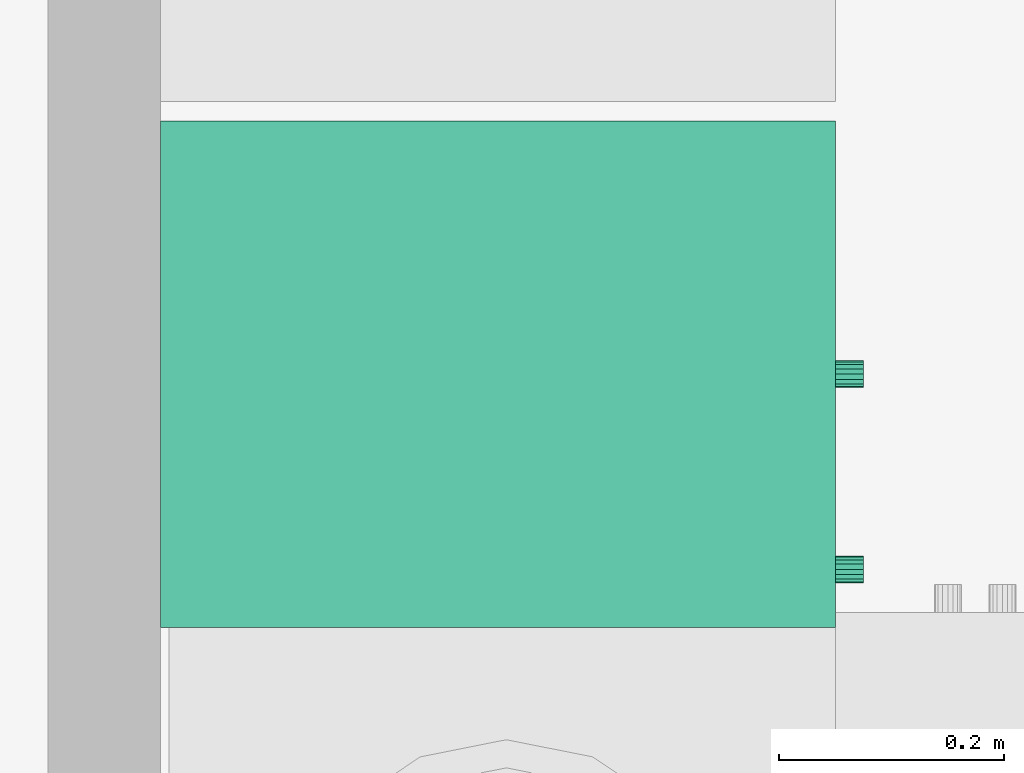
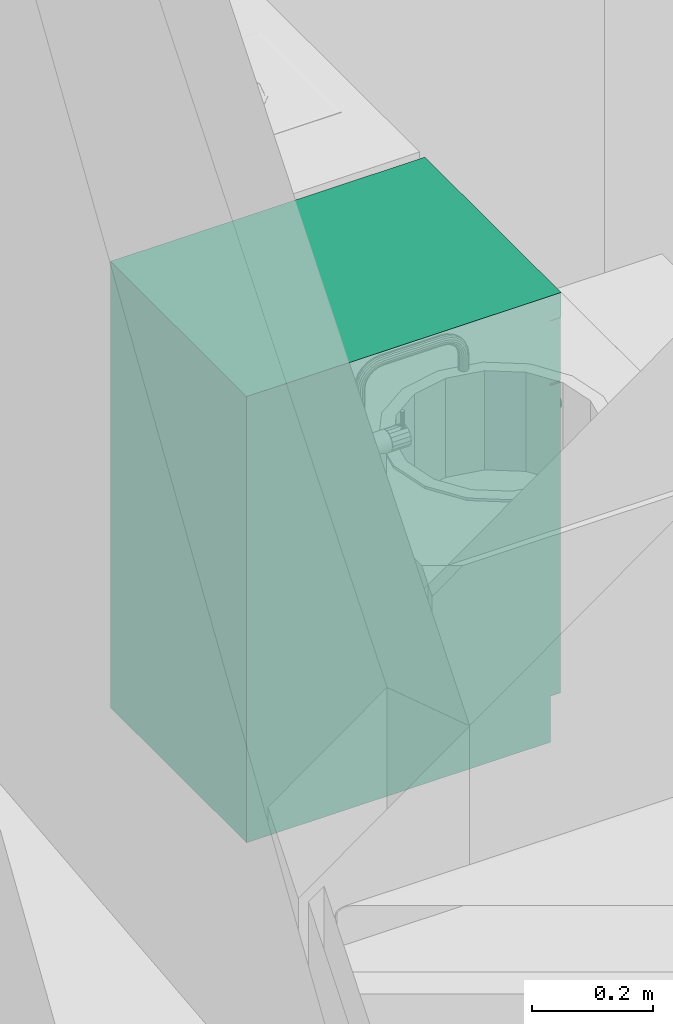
# One storey, part 64 of 172: 1 flow terminal.
"""IFC2X3 building model written with IfcOpenShell, lengths in millimetres."""

from ifc_helpers import new_model, entity, si_unit, converted_unit, money_unit, direction, frame, origin_with_axes, place, context, subcontext, project, spatial, faceted_brep, material, material_list, type_object, element, save


model = new_model("IFC2X3")

# Units and contexts
model_context = context("Model", 3, precision=1e-05, world=origin_with_axes(), true_north=direction((0.0, 1.0)))
body_context = subcontext(model_context, "Body", "Model", "MODEL_VIEW")
ifc_project = project(units=[si_unit("LENGTHUNIT", "METRE", prefix="MILLI"), si_unit("AREAUNIT", "SQUARE_METRE"), si_unit("VOLUMEUNIT", "CUBIC_METRE"), converted_unit("PLANEANGLEUNIT", "DEGREE", entity("IfcPlaneAngleMeasure", 0.0174532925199), si_unit("PLANEANGLEUNIT", "RADIAN"), dimensions=[0, 0, 0, 0, 0, 0, 0]), si_unit("SOLIDANGLEUNIT", "STERADIAN"), money_unit("USD"), converted_unit("TIMEUNIT", "Year", entity("IfcTimeMeasure", 31556926.0), si_unit("TIMEUNIT", "SECOND"), dimensions=[0, 0, 0, 0, 0, 0, 0]), si_unit("MASSUNIT", "GRAM"), si_unit("THERMODYNAMICTEMPERATUREUNIT", "DEGREE_CELSIUS"), si_unit("LUMINOUSINTENSITYUNIT", "LUMEN")], contexts=[model_context])

# Site, building, storey
site_placement = place(None, origin_with_axes())
site = spatial("IfcSite", under=ifc_project, at=site_placement, Name="Site", CompositionType="ELEMENT")
building_placement = place(site_placement, origin_with_axes())
building = spatial("IfcBuilding", under=site, at=building_placement, Name="Building", CompositionType="ELEMENT")
storey_placement = place(building_placement, frame((0.0, 0.0, 3200.0), z_axis=(0.0, 0.0, 1.0), x_axis=(1.0, 0.0, 0.0)))
storey = spatial("IfcBuildingStorey", under=building, at=storey_placement, Name="3KORRUS", CompositionType="ELEMENT", Elevation=3200.0)

# Flow terminal
ifc_material = material(Name="Background")
ifc_material_list = material_list([ifc_material])
sanitary_terminal_type = type_object("IfcSanitaryTerminalType", Name="Cabinet Base Single Door 19", PredefinedType="SINK")
flow_terminal_placement = place(storey_placement, frame((-53008.4921105, -14701.0262806, 0.0), z_axis=(0.0, 0.0, 1.0), x_axis=(0.0, 1.0, 0.0)))
element("IfcFlowTerminal", 1, at=flow_terminal_placement, inside=storey, type_object=sanitary_terminal_type, material=ifc_material_list, Name="FU - 007", context=body_context, shape_type="Brep", body=[
    faceted_brep([(-20.0, 20.0, 710.0), (-20.0, 20.0, 730.0), (-430.0, 20.0, 730.0), (-430.0, 20.0, 710.0), (-20.0, 580.0, 710.0), (-20.0, 580.0, 730.0), (-430.0, 580.0, 730.0), (-430.0, 580.0, 710.0)], [[[0, 1, 2, 3]], [[4, 5, 1, 0]], [[1, 5, 6, 2]], [[3, 2, 6, 7]], [[0, 3, 7, 4]], [[7, 6, 5, 4]]]),
    faceted_brep([(0.0, 20.0, 0.0), (0.0, 20.0, 90.0), (-450.0, 20.0, 90.0), (-450.0, 20.0, 0.0), (0.0, 600.0, 0.0), (0.0, 600.0, 90.0), (-450.0, 600.0, 90.0), (-450.0, 600.0, 0.0)], [[[0, 1, 2, 3]], [[4, 5, 1, 0]], [[1, 5, 6, 2]], [[3, 2, 6, 7]], [[0, 3, 7, 4]], [[7, 6, 5, 4]]]),
    faceted_brep([(0.0, 20.0, 830.0), (0.0, 20.0, 850.0), (-20.0, 20.0, 850.0), (-20.0, 20.0, 830.0), (0.0, 600.0, 830.0), (0.0, 600.0, 850.0), (-20.0, 600.0, 850.0), (-430.0, 600.0, 850.0), (-450.0, 600.0, 850.0), (-450.0, 20.0, 850.0), (-430.0, 20.0, 850.0), (-430.0, 20.0, 830.0), (-450.0, 20.0, 830.0), (-450.0, 600.0, 830.0), (-430.0, 600.0, 830.0), (-20.0, 600.0, 830.0)], [[[0, 1, 2, 3]], [[4, 5, 1, 0]], [[1, 5, 6, 7, 8, 9, 10, 2]], [[3, 2, 10, 11]], [[0, 3, 11, 12, 13, 14, 15, 4]], [[15, 6, 5, 4]], [[14, 7, 6, 15]], [[13, 8, 7, 14]], [[12, 9, 8, 13]], [[11, 10, 9, 12]]]),
    faceted_brep([(0.0, 20.0, 90.0), (0.0, 20.0, 110.0), (-20.0, 20.0, 110.0), (-20.0, 20.0, 90.0), (0.0, 600.0, 90.0), (0.0, 600.0, 110.0), (-20.0, 600.0, 110.0), (-430.0, 600.0, 110.0), (-450.0, 600.0, 110.0), (-450.0, 20.0, 110.0), (-430.0, 20.0, 110.0), (-430.0, 20.0, 90.0), (-450.0, 20.0, 90.0), (-450.0, 600.0, 90.0), (-430.0, 600.0, 90.0), (-20.0, 600.0, 90.0)], [[[0, 1, 2, 3]], [[4, 5, 1, 0]], [[1, 5, 6, 7, 8, 9, 10, 2]], [[3, 2, 10, 11]], [[0, 3, 11, 12, 13, 14, 15, 4]], [[15, 6, 5, 4]], [[14, 7, 6, 15]], [[13, 8, 7, 14]], [[12, 9, 8, 13]], [[11, 10, 9, 12]]]),
    faceted_brep([(0.0, 20.0, 110.0), (0.0, 20.0, 830.0), (-20.0, 20.0, 830.0), (-20.0, 20.0, 110.0), (0.0, 600.0, 110.0), (0.0, 600.0, 830.0), (-450.0, 600.0, 830.0), (-450.0, 20.0, 830.0), (-430.0, 20.0, 830.0), (-430.0, 580.0, 830.0), (-20.0, 580.0, 830.0), (-20.0, 580.0, 110.0), (-430.0, 580.0, 110.0), (-430.0, 20.0, 110.0), (-450.0, 20.0, 110.0), (-450.0, 600.0, 110.0)], [[[0, 1, 2, 3]], [[4, 5, 1, 0]], [[1, 5, 6, 7, 8, 9, 10, 2]], [[3, 2, 10, 11]], [[0, 3, 11, 12, 13, 14, 15, 4]], [[15, 6, 5, 4]], [[14, 7, 6, 15]], [[13, 8, 7, 14]], [[12, 9, 8, 13]], [[11, 10, 9, 12]]]),
    faceted_brep([(-430.0, 20.0, 385.0), (-430.0, 20.0, 405.0), (-430.0, 580.0, 405.0), (-430.0, 580.0, 385.0), (-20.0, 20.0, 385.0), (-20.0, 20.0, 405.0), (-20.0, 580.0, 405.0), (-20.0, 580.0, 385.0)], [[[0, 1, 2, 3]], [[4, 5, 1, 0]], [[1, 5, 6, 2]], [[3, 2, 6, 7]], [[0, 3, 7, 4]], [[7, 6, 5, 4]]]),
    faceted_brep([(0.0, 0.0, 850.0), (0.0, 0.0, 900.0), (-450.0, 0.0, 900.0), (-450.0, 0.0, 850.0), (0.0, 600.0, 850.0), (0.0, 600.0, 900.0), (-450.0, 600.0, 900.0), (-450.0, 600.0, 850.0)], [[[0, 1, 2, 3]], [[4, 5, 1, 0]], [[1, 5, 6, 2]], [[3, 2, 6, 7]], [[0, 3, 7, 4]], [[7, 6, 5, 4]]]),
    faceted_brep([(-1.5, 20.0, 721.5), (-1.5, 0.0, 721.5), (-448.5, 0.0, 721.5), (-448.5, 20.0, 721.5), (-1.5, 20.0, 848.5), (-1.5, 0.0, 848.5), (-448.5, 0.0, 848.5), (-448.5, 20.0, 848.5)], [[[0, 1, 2, 3]], [[4, 5, 1, 0]], [[1, 5, 6, 2]], [[3, 2, 6, 7]], [[0, 3, 7, 4]], [[7, 6, 5, 4]]]),
    faceted_brep([(-220.408, 0.0, 773.913), (-225.0, 0.0, 773.0), (-229.592, 0.0, 773.913), (-233.485, 0.0, 776.515), (-236.087, 0.0, 780.408), (-237.0, 0.0, 785.0), (-236.087, 0.0, 789.592), (-233.485, 0.0, 793.485), (-229.592, 0.0, 796.087), (-225.0, 0.0, 797.0), (-220.408, 0.0, 796.087), (-216.515, 0.0, 793.485), (-213.913, 0.0, 789.592), (-213.0, 0.0, 785.0), (-213.913, 0.0, 780.408), (-216.515, 0.0, 776.515), (-220.408, -25.0, 773.913), (-225.0, -25.0, 773.0), (-229.592, -25.0, 773.913), (-233.485, -25.0, 776.515), (-236.087, -25.0, 780.408), (-237.0, -25.0, 785.0), (-236.087, -25.0, 789.592), (-233.485, -25.0, 793.485), (-229.592, -25.0, 796.087), (-225.0, -25.0, 797.0), (-220.408, -25.0, 796.087), (-216.515, -25.0, 793.485), (-213.913, -25.0, 789.592), (-213.0, -25.0, 785.0), (-213.913, -25.0, 780.408), (-216.515, -25.0, 776.515)], [[[0, 1, 2, 3, 4, 5, 6, 7, 8, 9, 10, 11, 12, 13, 14, 15]], [[0, 16, 17, 1]], [[1, 17, 18, 2]], [[2, 18, 19, 3]], [[3, 19, 20, 4]], [[4, 20, 21, 5]], [[5, 21, 22, 6]], [[6, 22, 23, 7]], [[7, 23, 24, 8]], [[8, 24, 25, 9]], [[9, 25, 26, 10]], [[10, 26, 27, 11]], [[11, 27, 28, 12]], [[12, 28, 29, 13]], [[13, 29, 30, 14]], [[14, 30, 31, 15]], [[15, 31, 16, 0]], [[16, 31, 30, 29, 28, 27, 26, 25, 24, 23, 22, 21, 20, 19, 18, 17]]]),
    faceted_brep([(-1.5, 20.0, 91.5), (-1.5, 0.0, 91.5), (-448.5, 0.0, 91.5), (-448.5, 20.0, 91.5), (-1.5, 20.0, 718.5), (-1.5, 0.0, 718.5), (-448.5, 0.0, 718.5), (-448.5, 20.0, 718.5)], [[[0, 1, 2, 3]], [[4, 5, 1, 0]], [[1, 5, 6, 2]], [[3, 2, 6, 7]], [[0, 3, 7, 4]], [[7, 6, 5, 4]]]),
    faceted_brep([(-409.587, 0.0, 636.908), (-410.5, 0.0, 641.5), (-409.587, 0.0, 646.092), (-406.985, 0.0, 649.985), (-403.092, 0.0, 652.587), (-398.5, 0.0, 653.5), (-393.908, 0.0, 652.587), (-390.015, 0.0, 649.985), (-387.413, 0.0, 646.092), (-386.5, 0.0, 641.5), (-387.413, 0.0, 636.908), (-390.015, 0.0, 633.015), (-393.908, 0.0, 630.413), (-398.5, 0.0, 629.5), (-403.092, 0.0, 630.413), (-406.985, 0.0, 633.015), (-409.587, -25.0, 636.908), (-410.5, -25.0, 641.5), (-409.587, -25.0, 646.092), (-406.985, -25.0, 649.985), (-403.092, -25.0, 652.587), (-398.5, -25.0, 653.5), (-393.908, -25.0, 652.587), (-390.015, -25.0, 649.985), (-387.413, -25.0, 646.092), (-386.5, -25.0, 641.5), (-387.413, -25.0, 636.908), (-390.015, -25.0, 633.015), (-393.908, -25.0, 630.413), (-398.5, -25.0, 629.5), (-403.092, -25.0, 630.413), (-406.985, -25.0, 633.015)], [[[0, 1, 2, 3, 4, 5, 6, 7, 8, 9, 10, 11, 12, 13, 14, 15]], [[0, 16, 17, 1]], [[1, 17, 18, 2]], [[2, 18, 19, 3]], [[3, 19, 20, 4]], [[4, 20, 21, 5]], [[5, 21, 22, 6]], [[6, 22, 23, 7]], [[7, 23, 24, 8]], [[8, 24, 25, 9]], [[9, 25, 26, 10]], [[10, 26, 27, 11]], [[11, 27, 28, 12]], [[12, 28, 29, 13]], [[13, 29, 30, 14]], [[14, 30, 31, 15]], [[15, 31, 16, 0]], [[16, 31, 30, 29, 28, 27, 26, 25, 24, 23, 22, 21, 20, 19, 18, 17]]]),
])

save(model, "model.ifc")
